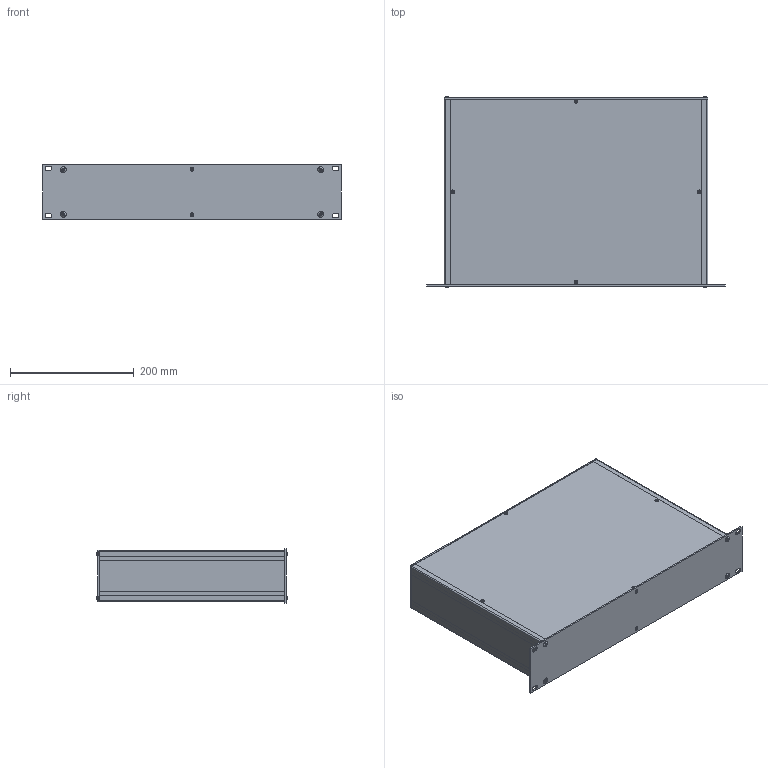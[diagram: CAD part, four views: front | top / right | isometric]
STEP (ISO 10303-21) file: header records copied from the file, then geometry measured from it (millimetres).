
FILE_DESCRIPTION(/* description */ (''),/* implementation_level */ '2;1');
FILE_NAME(/* name */ '//diskstation/Kunden/Gehäuse/Gehäuse/2HE/step/Zoll 2HE Rack Gehäuse Tiefe-300.step',/* time_stamp */ '2022-02-17T15:36:40+01:00',/* author */ (''),/* organization */ (''),/* preprocessor_version */ 'ST-DEVELOPER v18.1',/* originating_system */ 'Autodesk Translation Framework v10.10.0.1391',/* authorisation */ '');
FILE_SCHEMA (('AUTOMOTIVE_DESIGN { 1 0 10303 214 3 1 1 }'));
Length unit declared in the file: millimetre
Products named in the file (28): 2HE Gehäuse mit parametern; Gehäuse; Gehäuseprofil 1 unten links; Gehäuseprofil 2 oben rechts; Gehäuseprofil 1 unten rechts; Gehäuseprofil 2 oben links; Rückplatte; Deckel; Seitenteil links; Seitenteil rechts; Bodenplatte; Montageklotz Front/Deckel; Montageklotz Front/Boden; Montageklotz Rück/Deckel; Montageklotz Rück/Boden; Gewindestreifen; Frontplatte; Schrauben M5; Schraube Front; Schraube Front (1); Schraube Front (2); Schraube Front (3); Schraube Rück (1); Schraube Rück; Schraube Rück (2); Schraube Rück (3); Schrauben M3; HI_Senkschraube DIN 965 A v2 M3x5 24677.030.005(High)
Assembly tree (37 placements, depth 3):
  2HE Gehäuse mit parametern
    Gehäuse
      Gehäuseprofil 1 unten links
      Gehäuseprofil 2 oben rechts
      Gehäuseprofil 1 unten rechts
      Gehäuseprofil 2 oben links
      Rückplatte
      Deckel
      Seitenteil links
      Seitenteil rechts
      Bodenplatte
      Montageklotz Front/Deckel
      Montageklotz Front/Boden
      Montageklotz Rück/Deckel
      Montageklotz Rück/Boden
      Gewindestreifen  x2
    Frontplatte
    Schrauben M5
      Schraube Front
      Schraube Front (1)
      Schraube Front (2)
      Schraube Front (3)
      Schraube Rück (1)
      Schraube Rück
      Schraube Rück (2)
      Schraube Rück (3)
    Schrauben M3
      HI_Senkschraube DIN 965 A v2 M3x5 24677.030.005(High)  x10
Bounding box: 483 x 308.2 x 88.1 mm (x, y, z)
Volume: 959462.5 mm3; surface area: 859569.4 mm2
Topology: 34 solids, 34 shells, 874 faces, 2136 edges, 1330 vertices
Faces by surface type: cylinder 352, plane 342, cone 164, torus 8, bspline 8
Full cylindrical faces by diameter (mm): 2.529 x110, 3 x10, 3.2 x10, 4.234 x40, 5 x8, 5.2 x8, 5.3 x4, 5.6 x10, 9.5 x8
Entity records: 17235 total; most frequent: CARTESIAN_POINT 3138, DIRECTION 2890, ORIENTED_EDGE 2550, EDGE_CURVE 1275, AXIS2_PLACEMENT_3D 1090, VERTEX_POINT 798, EDGE_LOOP 761, LINE 710
